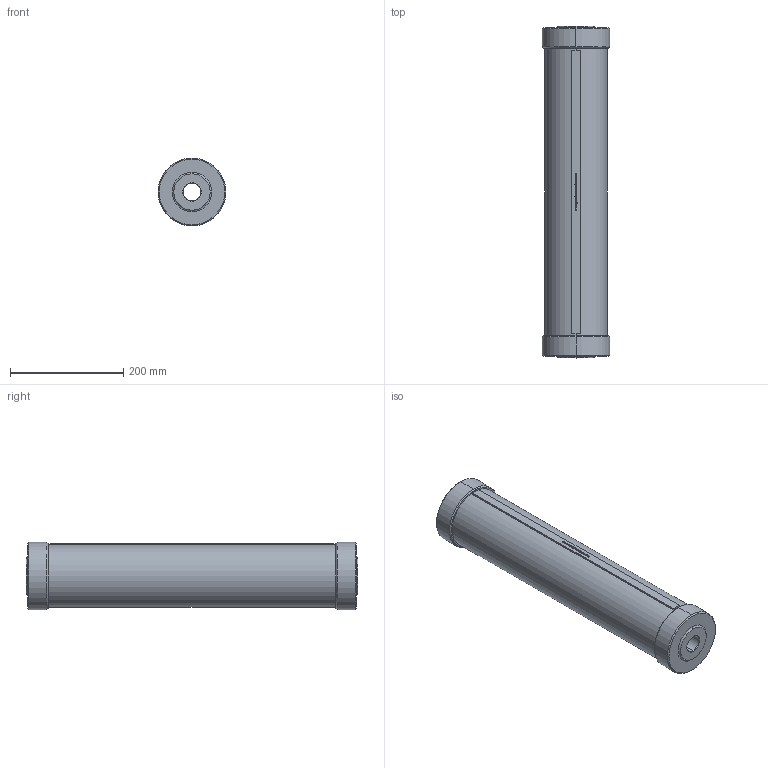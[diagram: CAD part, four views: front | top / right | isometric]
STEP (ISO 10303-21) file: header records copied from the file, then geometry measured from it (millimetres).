
FILE_DESCRIPTION (( 'STEP AP214' ), '1' );
FILE_NAME ('4.0LTR-C-11-00.STEP', '2025-06-03T12:40:41', ( '' ), ( '' ), 'SwSTEP 2.0', 'SolidWorks 2024', '' );
FILE_SCHEMA (( 'AUTOMOTIVE_DESIGN' ));
Length unit declared in the file: millimetre
Products named in the file (1): 4.0LTR-C-11-00
Bounding box: 120 x 586 x 120 mm (x, y, z)
Volume: 886643.8 mm3; surface area: 472660.8 mm2
Topology: 4 solids, 4 shells, 366 faces, 953 edges, 630 vertices
Faces by surface type: plane 167, bspline 163, cylinder 16, cone 16, torus 4
Entity records: 21067 total; most frequent: CARTESIAN_POINT 9061, ORIENTED_EDGE 1906, DIRECTION 1095, EDGE_CURVE 953, VERTEX_POINT 630, VECTOR 567, LINE 567, EDGE_LOOP 407
